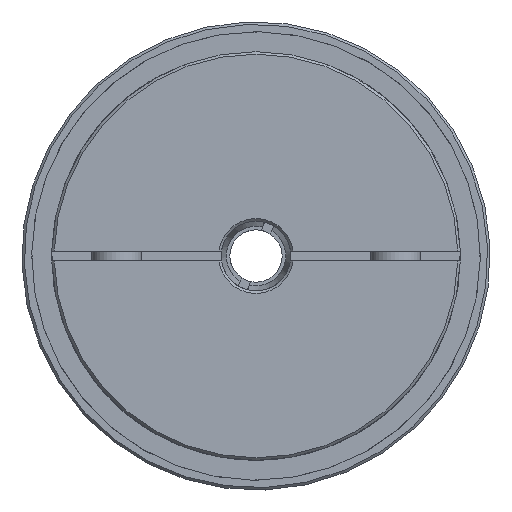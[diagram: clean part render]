
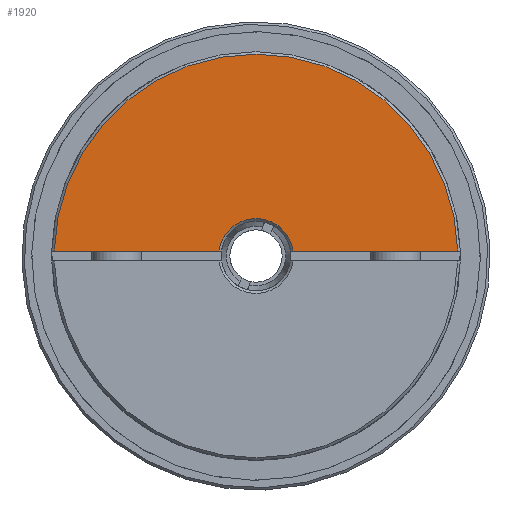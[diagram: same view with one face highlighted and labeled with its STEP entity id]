
A CAD part, left-side view. The second image highlights one B-rep face of the part: STEP entity #1920.
In plain terms, the highlighted planar face has unit normal (-1, 0, 0) as drawn and (1, 0, 0) by its records, which use the part's own axes.
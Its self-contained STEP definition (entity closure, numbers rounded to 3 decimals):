
#1920 = ADVANCED_FACE( '', ( #2735 ), #2736, .T. );
#2735 = FACE_OUTER_BOUND( '', #4077, .T. );
#2736 = PLANE( '', #4078 );
#4077 = EDGE_LOOP( '', ( #4872, #4873, #4874, #4875 ) );
#4078 = AXIS2_PLACEMENT_3D( '', #4876, #4877, #4878 );
#4872 = ORIENTED_EDGE( '', *, *, #5741, .F. );
#4873 = ORIENTED_EDGE( '', *, *, #5742, .T. );
#4874 = ORIENTED_EDGE( '', *, *, #5743, .F. );
#4875 = ORIENTED_EDGE( '', *, *, #5744, .T. );
#4876 = CARTESIAN_POINT( '', ( 36., 0., 41. ) );
#4877 = DIRECTION( '', ( 1., 0., 0. ) );
#4878 = DIRECTION( '', ( 0., 0., -1. ) );
#5741 = EDGE_CURVE( '', #7456, #7457, #7458, .T. );
#5742 = EDGE_CURVE( '', #7456, #7459, #7460, .T. );
#5743 = EDGE_CURVE( '', #7461, #7459, #7462, .T. );
#5744 = EDGE_CURVE( '', #7461, #7457, #7463, .F. );
#7456 = VERTEX_POINT( '', #8432 );
#7457 = VERTEX_POINT( '', #8433 );
#7458 = LINE( '', #8434, #8435 );
#7459 = VERTEX_POINT( '', #8436 );
#7460 = CIRCLE( '', #8437, 40.5 );
#7461 = VERTEX_POINT( '', #8438 );
#7462 = LINE( '', #8439, #8440 );
#7463 = CIRCLE( '', #8441, 7.5 );
#8432 = CARTESIAN_POINT( '', ( 36., 40.488, 1. ) );
#8433 = CARTESIAN_POINT( '', ( 36., 7.433, 1. ) );
#8434 = CARTESIAN_POINT( '', ( 36., 0., 1. ) );
#8435 = VECTOR( '', #8733, 1000. );
#8436 = CARTESIAN_POINT( '', ( 36., -40.488, 1. ) );
#8437 = AXIS2_PLACEMENT_3D( '', #8734, #8735, #8736 );
#8438 = CARTESIAN_POINT( '', ( 36., -7.433, 1. ) );
#8439 = CARTESIAN_POINT( '', ( 36., 0., 1. ) );
#8440 = VECTOR( '', #8737, 1000. );
#8441 = AXIS2_PLACEMENT_3D( '', #8738, #8739, #8740 );
#8733 = DIRECTION( '', ( 0., -1., 0. ) );
#8734 = CARTESIAN_POINT( '', ( 36., 0., 0. ) );
#8735 = DIRECTION( '', ( 1., 0., 0. ) );
#8736 = DIRECTION( '', ( 0., 0., -1. ) );
#8737 = DIRECTION( '', ( 0., -1., 0. ) );
#8738 = CARTESIAN_POINT( '', ( 36., 0., 0. ) );
#8739 = DIRECTION( '', ( 1., 0., 0. ) );
#8740 = DIRECTION( '', ( 0., 0., -1. ) );
